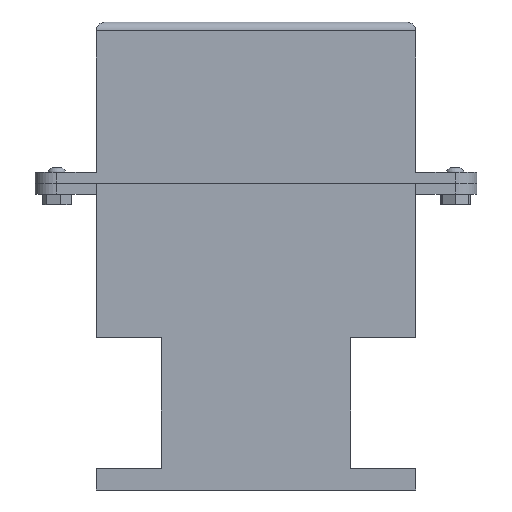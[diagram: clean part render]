
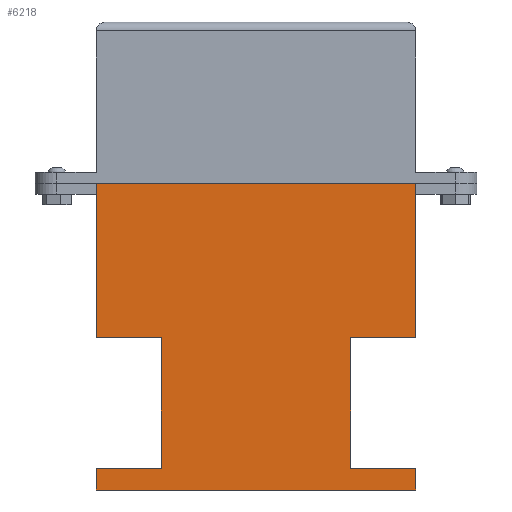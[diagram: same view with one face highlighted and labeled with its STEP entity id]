
A CAD part, left-side view. The second image highlights one B-rep face of the part: STEP entity #6218.
In plain terms, the highlighted planar face has unit normal (-1, 0, 0).
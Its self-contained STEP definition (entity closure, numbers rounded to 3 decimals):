
#680=FACE_OUTER_BOUND('',#1035,.T.);
#1035=EDGE_LOOP('',(#5390,#5391,#5392,#5393,#5394,#5395,#5396,#5397,#5398,
#5399,#5400,#5401));
#1569=LINE('',#10631,#2220);
#1584=LINE('',#10667,#2235);
#1590=LINE('',#10679,#2241);
#1600=LINE('',#10695,#2251);
#1605=LINE('',#10706,#2256);
#1608=LINE('',#10711,#2259);
#1642=LINE('',#10794,#2293);
#1643=LINE('',#10797,#2294);
#1645=LINE('',#10800,#2296);
#1646=LINE('',#10802,#2297);
#1648=LINE('',#10806,#2299);
#1649=LINE('',#10808,#2300);
#2220=VECTOR('',#7443,10.);
#2235=VECTOR('',#7468,10.);
#2241=VECTOR('',#7478,10.);
#2251=VECTOR('',#7490,10.);
#2256=VECTOR('',#7499,10.);
#2259=VECTOR('',#7504,10.);
#2293=VECTOR('',#7600,10.);
#2294=VECTOR('',#7603,10.);
#2296=VECTOR('',#7607,10.);
#2297=VECTOR('',#7610,10.);
#2299=VECTOR('',#7614,10.);
#2300=VECTOR('',#7617,10.);
#2861=VERTEX_POINT('',#10628);
#2862=VERTEX_POINT('',#10630);
#2877=VERTEX_POINT('',#10664);
#2878=VERTEX_POINT('',#10666);
#2881=VERTEX_POINT('',#10676);
#2882=VERTEX_POINT('',#10678);
#2890=VERTEX_POINT('',#10703);
#2891=VERTEX_POINT('',#10705);
#2892=VERTEX_POINT('',#10709);
#2910=VERTEX_POINT('',#10792);
#2911=VERTEX_POINT('',#10796);
#2912=VERTEX_POINT('',#10804);
#3678=EDGE_CURVE('',#2862,#2861,#1569,.T.);
#3696=EDGE_CURVE('',#2878,#2877,#1584,.T.);
#3702=EDGE_CURVE('',#2882,#2881,#1590,.T.);
#3712=EDGE_CURVE('',#2862,#2881,#1600,.T.);
#3717=EDGE_CURVE('',#2890,#2891,#1605,.T.);
#3720=EDGE_CURVE('',#2890,#2892,#1608,.T.);
#3760=EDGE_CURVE('',#2861,#2910,#1642,.T.);
#3761=EDGE_CURVE('',#2911,#2878,#1643,.T.);
#3763=EDGE_CURVE('',#2910,#2911,#1645,.T.);
#3764=EDGE_CURVE('',#2892,#2882,#1646,.T.);
#3766=EDGE_CURVE('',#2877,#2912,#1648,.T.);
#3767=EDGE_CURVE('',#2891,#2912,#1649,.T.);
#5390=ORIENTED_EDGE('',*,*,#3763,.T.);
#5391=ORIENTED_EDGE('',*,*,#3761,.T.);
#5392=ORIENTED_EDGE('',*,*,#3696,.T.);
#5393=ORIENTED_EDGE('',*,*,#3766,.T.);
#5394=ORIENTED_EDGE('',*,*,#3767,.F.);
#5395=ORIENTED_EDGE('',*,*,#3717,.F.);
#5396=ORIENTED_EDGE('',*,*,#3720,.T.);
#5397=ORIENTED_EDGE('',*,*,#3764,.T.);
#5398=ORIENTED_EDGE('',*,*,#3702,.T.);
#5399=ORIENTED_EDGE('',*,*,#3712,.F.);
#5400=ORIENTED_EDGE('',*,*,#3678,.T.);
#5401=ORIENTED_EDGE('',*,*,#3760,.T.);
#5860=PLANE('',#6529);
#6218=ADVANCED_FACE('',(#680),#5860,.T.);
#6529=AXIS2_PLACEMENT_3D('',#10807,#7615,#7616);
#7443=DIRECTION('',(0.,1.,0.));
#7468=DIRECTION('',(0.,1.,0.));
#7478=DIRECTION('',(0.,-1.,0.));
#7490=DIRECTION('',(0.,0.,-1.));
#7499=DIRECTION('',(0.,0.,-1.));
#7504=DIRECTION('',(0.,1.,0.));
#7600=DIRECTION('',(0.,0.,-1.));
#7603=DIRECTION('',(0.,0.,-1.));
#7607=DIRECTION('',(0.,-1.,0.));
#7610=DIRECTION('',(0.,0.,1.));
#7614=DIRECTION('',(0.,0.,-1.));
#7615=DIRECTION('center_axis',(-1.,0.,0.));
#7616=DIRECTION('ref_axis',(0.,1.,0.));
#7617=DIRECTION('',(0.,1.,0.));
#10628=CARTESIAN_POINT('',(-10.,147.,0.));
#10630=CARTESIAN_POINT('',(-10.,0.,0.));
#10631=CARTESIAN_POINT('',(-10.,0.,0.));
#10664=CARTESIAN_POINT('',(-10.,147.,-131.));
#10666=CARTESIAN_POINT('',(-10.,117.,-131.));
#10667=CARTESIAN_POINT('',(-10.,58.5,-131.));
#10676=CARTESIAN_POINT('',(-10.,0.,-71.));
#10678=CARTESIAN_POINT('',(-10.,30.,-71.));
#10679=CARTESIAN_POINT('',(-10.,15.,-71.));
#10695=CARTESIAN_POINT('',(-10.,0.,0.));
#10703=CARTESIAN_POINT('',(-10.,0.,-131.));
#10705=CARTESIAN_POINT('',(-10.,0.,-141.));
#10706=CARTESIAN_POINT('',(-10.,0.,0.));
#10709=CARTESIAN_POINT('',(-10.,30.,-131.));
#10711=CARTESIAN_POINT('',(-10.,0.,-131.));
#10792=CARTESIAN_POINT('',(-10.,147.,-71.));
#10794=CARTESIAN_POINT('',(-10.,147.,0.));
#10796=CARTESIAN_POINT('',(-10.,117.,-71.));
#10797=CARTESIAN_POINT('',(-10.,117.,-35.5));
#10800=CARTESIAN_POINT('',(-10.,73.5,-71.));
#10802=CARTESIAN_POINT('',(-10.,30.,-65.5));
#10804=CARTESIAN_POINT('',(-10.,147.,-141.));
#10806=CARTESIAN_POINT('',(-10.,147.,0.));
#10807=CARTESIAN_POINT('Origin',(-10.,0.,0.));
#10808=CARTESIAN_POINT('',(-10.,0.,-141.));
